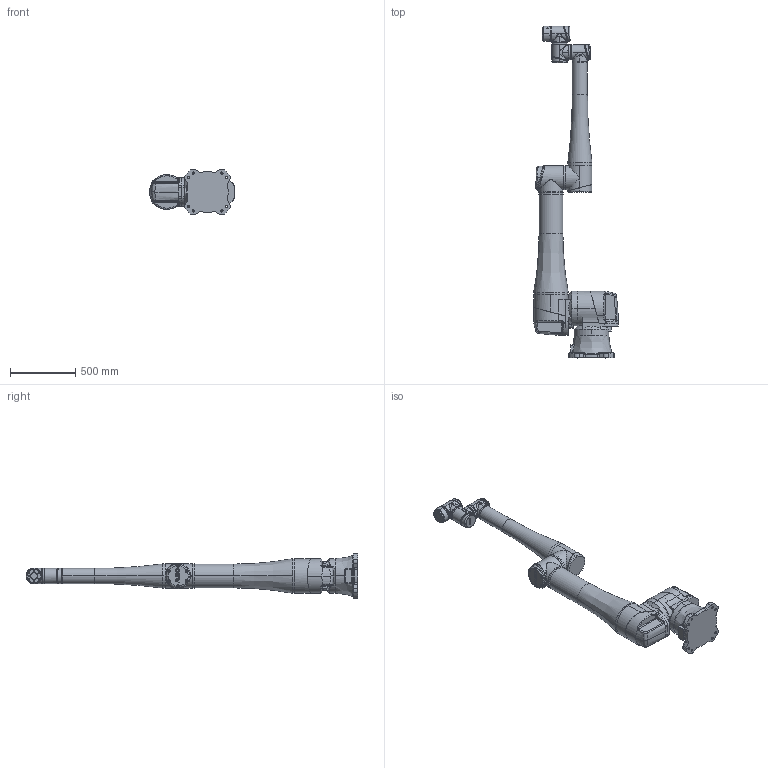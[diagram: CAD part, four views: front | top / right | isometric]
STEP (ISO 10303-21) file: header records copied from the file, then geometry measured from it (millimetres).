
FILE_DESCRIPTION (( 'STEP AP214' ), '1' );
FILE_NAME ('iS35(Ex)-Íâ·¢Ä£ÐÍ.STEP', '2026-09-07T06:07:03', ( '' ), ( '' ), 'SwSTEP 2.0', 'SolidWorks 2024', '' );
FILE_SCHEMA (( 'AUTOMOTIVE_DESIGN' ));
Length unit declared in the file: millimetre
Products named in the file (8): i35(Ex)-link1; i35(Ex)-link6; iS35(Ex)-外发模型; i35(Ex)-link2; i35(Ex)-link4; i35(Ex)-link3; i35(Ex)-link0; i35(Ex)-link5
Assembly tree (7 placements, depth 2):
  iS35(Ex)-外发模型
    i35(Ex)-link0
    i35(Ex)-link1
    i35(Ex)-link2
    i35(Ex)-link3
    i35(Ex)-link4
    i35(Ex)-link5
    i35(Ex)-link6
Bounding box: 647.5 x 2537.6 x 349.1 mm (x, y, z)
Volume: 105558334.4 mm3; surface area: 2984094.3 mm2
Topology: 7 solids, 9 shells, 1687 faces, 4325 edges, 2764 vertices
Faces by surface type: bspline 611, plane 541, cylinder 421, cone 103, sphere 7, torus 4
Entity records: 130452 total; most frequent: CARTESIAN_POINT 79449, ORIENTED_EDGE 8610, DIRECTION 5750, EDGE_CURVE 4305, VERTEX_POINT 2764, AXIS2_PLACEMENT_3D 2112, EDGE_LOOP 1833, FACE_OUTER_BOUND 1687
